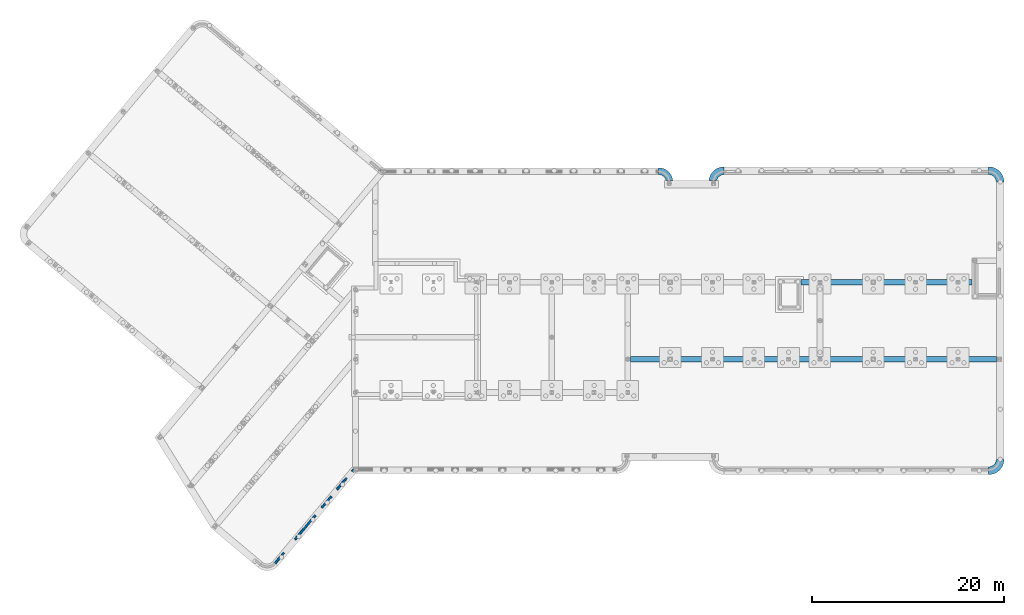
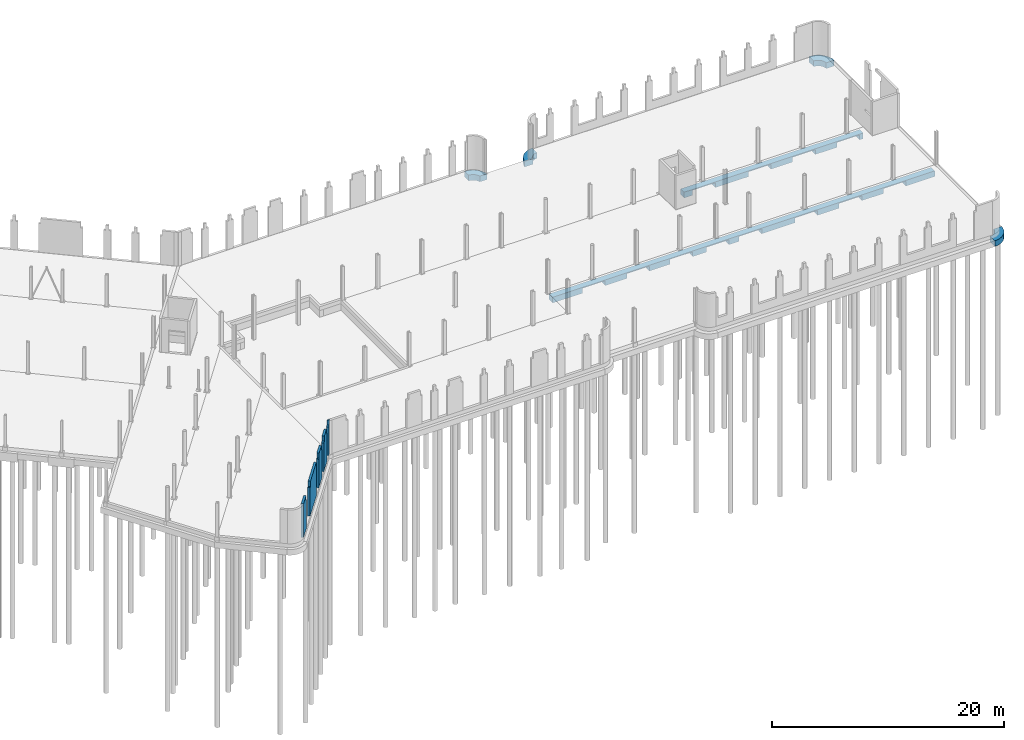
# One storey, part 24 of 26: 6 beams, 1 wall.
"""IFC2X3 building model written with IfcOpenShell, lengths in millimetres."""

from ifc_helpers import new_model, entity, si_unit, converted_unit, derived_unit, direction, frame, origin, place, context, subcontext, project, spatial, faceted_brep, material, layer, layer_set, type_object, element, save


model = new_model("IFC2X3")

# Units and contexts
model_context = context("Model", 3, precision=0.01, world=origin(), true_north=direction((6.123031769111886e-17, 1.0)))
body_context = subcontext(model_context, "Body", "Model", "MODEL_VIEW")
ifc_project = project(units=[si_unit("LENGTHUNIT", "METRE", prefix="MILLI"), si_unit("AREAUNIT", "SQUARE_METRE"), si_unit("VOLUMEUNIT", "CUBIC_METRE"), derived_unit("MASSDENSITYUNIT", [(si_unit("MASSUNIT", "GRAM", prefix="KILO"), 1), (si_unit("LENGTHUNIT", "METRE"), -3)]), si_unit("MASSUNIT", "GRAM", prefix="KILO"), converted_unit("PLANEANGLEUNIT", "DEGREE", entity("IfcPlaneAngleMeasure", 0.017453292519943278), si_unit("PLANEANGLEUNIT", "RADIAN"), dimensions=[0, 0, 0, 0, 0, 0, 0])], contexts=[model_context])

# Site, building, storey
site_placement = place(None, origin())
site = spatial("IfcSite", under=ifc_project, at=site_placement, Name="Default", CompositionType="ELEMENT")
building_placement = place(site_placement, origin())
building = spatial("IfcBuilding", under=site, at=building_placement, Name="AT constructie", CompositionType="ELEMENT")
storey_placement = place(building_placement, origin())
storey = spatial("IfcBuildingStorey", under=building, at=storey_placement, Name="00 begane grond", CompositionType="ELEMENT", Elevation=-1.0828671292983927e-12)

# Beams
ifc_material_1 = material(Name="f2_beton ihwg_gen")
beam_type_1 = type_object("IfcBeamType", Name="fund vierkant_gen_800x600", PredefinedType="NOTDEFINED")
beam_1_placement = place(storey_placement, frame((106945.27935887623, 41669.44823628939, -1050.0), z_axis=(0.0, 0.0, -1.0), x_axis=(1.0, 0.0, 0.0)))
element("IfcBeam", 1, at=beam_1_placement, inside=storey, type_object=beam_type_1, material=ifc_material_1, Name="NLRS_16_SF_LIB_balk fundering beton_gen_AT:fund vierkant_gen_800x600", ObjectType="NLRS_16_SF_LIB_balk fundering beton_gen_AT:fund vierkant_gen_800x600", context=body_context, shape_type="Brep", body=[
    faceted_brep([(1.595272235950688, -787.595272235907, -600.0), (96.3371029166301, -781.8644472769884, -600.0), (189.69738436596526, -764.7555407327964, -600.0), (280.31471345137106, -736.5180389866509, -600.0), (366.86768546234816, -697.5637083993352, -600.0), (448.09416316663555, -648.4605908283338, -600.0), (522.8096816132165, -589.9247202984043, -600.0), (589.9247202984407, -522.8096816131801, -600.0), (648.4605908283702, -448.09416316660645, -600.0), (697.5637083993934, -366.86768546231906, -600.0), (736.5180389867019, -280.3147134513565, -600.0), (764.7555407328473, -189.69738436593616, -600.0), (781.8644472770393, -96.337102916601, -600.0), (787.5952722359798, -1.5952722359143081, -600.0), (1587.5952722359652, -1.595272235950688, -600.0), (1581.5600634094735, -139.82428023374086, -600.0), (1563.5003685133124, -277.00128201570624, -600.0), (1533.5536327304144, -412.0822777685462, -600.0), (1491.9477688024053, -544.0392195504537, -600.0), (1438.9994224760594, -671.8678353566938, -600.0), (1375.1115626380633, -794.5952722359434, -600.0), (1300.7704144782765, -911.287500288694, -600.0), (1216.541759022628, -1021.0564211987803, -600.0), (1123.0666271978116, -1123.0666271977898, -600.0), (1021.0564211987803, -1216.541759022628, -600.0), (911.2875002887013, -1300.770414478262, -600.0), (794.5952722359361, -1375.1115626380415, -600.0), (671.8678353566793, -1438.9994224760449, -600.0), (544.0392195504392, -1491.947768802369, -600.0), (412.08227776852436, -1533.553632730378, -600.0), (277.0012820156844, -1563.500368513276, -600.0), (139.82428023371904, -1581.5600634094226, -600.0), (1.595272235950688, -1587.595272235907, -600.0), (277.0012820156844, -1563.500368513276, 0.0), (412.08227776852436, -1533.553632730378, 0.0), (139.82428023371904, -1581.5600634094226, 0.0), (544.0392195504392, -1491.947768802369, 0.0), (1021.0564211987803, -1216.541759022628, 0.0), (911.2875002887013, -1300.770414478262, 0.0), (671.8678353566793, -1438.9994224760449, 0.0), (794.5952722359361, -1375.1115626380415, 0.0), (1123.0666271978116, -1123.0666271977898, 0.0), (1.595272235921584, -1587.595272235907, 0.0), (1300.7704144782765, -911.287500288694, 0.0), (1375.1115626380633, -794.5952722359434, 0.0), (1216.541759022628, -1021.0564211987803, 0.0), (1438.9994224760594, -671.8678353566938, 0.0), (1581.5600634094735, -139.82428023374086, 0.0), (1563.5003685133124, -277.00128201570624, 0.0), (1491.9477688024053, -544.0392195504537, 0.0), (1533.5536327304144, -412.0822777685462, 0.0), (1587.5952722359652, -1.595272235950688, 0.0), (787.5952722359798, -1.595272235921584, 0.0), (781.8644472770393, -96.337102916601, 0.0), (764.7555407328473, -189.69738436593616, 0.0), (736.5180389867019, -280.3147134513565, 0.0), (697.5637083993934, -366.86768546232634, 0.0), (648.4605908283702, -448.09416316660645, 0.0), (589.9247202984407, -522.8096816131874, 0.0), (522.8096816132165, -589.9247202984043, 0.0), (448.09416316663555, -648.4605908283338, 0.0), (366.86768546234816, -697.5637083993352, 0.0), (280.31471345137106, -736.5180389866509, 0.0), (189.69738436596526, -764.7555407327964, 0.0), (96.3371029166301, -781.8644472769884, 0.0), (1.595272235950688, -787.595272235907, 0.0)], [[[0, 1, 2, 3, 4, 5, 6, 7, 8, 9, 10, 11, 12, 13, 14, 15, 16, 17, 18, 19, 20, 21, 22, 23, 24, 25, 26, 27, 28, 29, 30, 31, 32]], [[33, 30, 29, 34]], [[35, 31, 30, 33]], [[34, 29, 28, 36]], [[25, 24, 37, 38]], [[39, 27, 26, 40]], [[40, 26, 25, 38]], [[28, 27, 39, 36]], [[37, 24, 23, 41]], [[32, 31, 35, 42]], [[43, 21, 20, 44]], [[45, 22, 21, 43]], [[44, 20, 19, 46]], [[16, 15, 47, 48]], [[49, 18, 17, 50]], [[50, 17, 16, 48]], [[19, 18, 49, 46]], [[47, 15, 14, 51]], [[41, 23, 22, 45]], [[42, 35, 33, 34, 36, 39, 40, 38, 37, 41, 45, 43, 44, 46, 49, 50, 48, 47, 51, 52, 53, 54, 55, 56, 57, 58, 59, 60, 61, 62, 63, 64, 65]], [[1, 0, 65, 64]], [[1, 64, 63, 2]], [[61, 60, 5, 4]], [[4, 3, 62, 61]], [[3, 2, 63, 62]], [[6, 5, 60, 59]], [[59, 58, 7, 6]], [[8, 7, 58, 57]], [[8, 57, 56, 9]], [[54, 53, 12, 11]], [[11, 10, 55, 54]], [[10, 9, 56, 55]], [[13, 12, 53, 52]], [[32, 42, 65, 0]], [[14, 13, 52, 51]]]),
])
beam_2_placement = place(storey_placement, frame((106945.27935887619, 11283.448236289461, -1050.0), z_axis=(0.0, 0.0, -1.0), x_axis=(1.0, 0.0, 0.0)))
element("IfcBeam", 2, at=beam_2_placement, inside=storey, type_object=beam_type_1, material=ifc_material_1, Name="NLRS_16_SF_LIB_balk fundering beton_gen_AT:fund vierkant_gen_800x600", ObjectType="NLRS_16_SF_LIB_balk fundering beton_gen_AT:fund vierkant_gen_800x600", context=body_context, shape_type="Brep", body=[
    faceted_brep([(787.5952722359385, -1587.5952722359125, -600.0), (781.8644472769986, -1492.8534415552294, -600.0), (764.7555407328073, -1399.4931601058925, -600.0), (736.5180389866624, -1308.8758310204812, -600.0), (697.5637083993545, -1222.3228590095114, -600.0), (648.4605908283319, -1141.0963813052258, -600.0), (589.9247202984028, -1066.3808628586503, -600.0), (522.8096816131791, -999.2658241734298, -600.0), (448.09416316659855, -940.7299536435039, -600.0), (366.86768546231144, -891.6268360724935, -600.0), (280.3147134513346, -852.6725054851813, -600.0), (189.697384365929, -824.4350037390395, -600.0), (96.33710291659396, -807.3260971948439, -600.0), (1.5952722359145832, -801.5952722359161, -600.0), (1.5952722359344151, -1.595272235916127, -600.0), (139.82428023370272, -7.630481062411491, -600.0), (277.001282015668, -25.69017595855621, -600.0), (412.0822777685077, -55.6369117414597, -600.0), (544.0392195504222, -97.24277566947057, -600.0), (671.867835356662, -150.19112199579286, -600.0), (794.5952722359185, -214.07898183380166, -600.0), (911.2875002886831, -288.4201299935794, -600.0), (1021.0564211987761, -372.64878544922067, -600.0), (1123.0666271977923, -466.1239172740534, -600.0), (1216.541759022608, -568.1341232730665, -600.0), (1300.7704144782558, -677.9030441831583, -600.0), (1375.1115626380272, -794.5952722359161, -600.0), (1438.9994224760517, -917.3227091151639, -600.0), (1491.9477688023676, -1045.1513249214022, -600.0), (1533.5536327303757, -1177.1082667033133, -600.0), (1563.5003685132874, -1312.1892624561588, -600.0), (1581.560063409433, -1449.3662642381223, -600.0), (1587.5952722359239, -1587.5952722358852, -600.0), (1563.5003685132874, -1312.1892624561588, 0.0), (1533.5536327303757, -1177.1082667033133, 0.0), (1581.560063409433, -1449.3662642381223, 0.0), (1491.9477688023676, -1045.1513249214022, 0.0), (1216.541759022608, -568.1341232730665, 0.0), (1300.7704144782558, -677.9030441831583, 0.0), (1438.9994224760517, -917.3227091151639, 0.0), (1375.1115626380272, -794.5952722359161, 0.0), (1123.0666271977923, -466.1239172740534, 0.0), (1587.5952722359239, -1587.5952722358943, 0.0), (911.2875002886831, -288.4201299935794, 0.0), (794.5952722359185, -214.07898183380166, 0.0), (1021.0564211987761, -372.64878544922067, 0.0), (671.867835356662, -150.19112199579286, 0.0), (139.82428023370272, -7.630481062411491, 0.0), (277.001282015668, -25.69017595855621, 0.0), (544.0392195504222, -97.24277566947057, 0.0), (412.0822777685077, -55.63691174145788, 0.0), (1.5952722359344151, -1.595272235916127, 0.0), (1.5952722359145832, -801.5952722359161, 0.0), (96.33710291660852, -807.3260971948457, 0.0), (189.69738436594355, -824.4350037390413, 0.0), (280.3147134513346, -852.6725054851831, 0.0), (366.86768546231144, -891.6268360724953, 0.0), (448.0941631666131, -940.7299536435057, 0.0), (522.8096816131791, -999.2658241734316, 0.0), (589.9247202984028, -1066.380862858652, 0.0), (648.4605908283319, -1141.0963813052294, 0.0), (697.5637083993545, -1222.3228590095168, 0.0), (736.5180389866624, -1308.875831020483, 0.0), (764.7555407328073, -1399.493160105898, 0.0), (781.8644472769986, -1492.853441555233, 0.0), (787.5952722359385, -1587.595272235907, 0.0)], [[[0, 1, 2, 3, 4, 5, 6, 7, 8, 9, 10, 11, 12, 13, 14, 15, 16, 17, 18, 19, 20, 21, 22, 23, 24, 25, 26, 27, 28, 29, 30, 31, 32]], [[33, 30, 29, 34]], [[35, 31, 30, 33]], [[34, 29, 28, 36]], [[25, 24, 37, 38]], [[39, 27, 26, 40]], [[40, 26, 25, 38]], [[28, 27, 39, 36]], [[37, 24, 23, 41]], [[32, 31, 35, 42]], [[43, 21, 20, 44]], [[45, 22, 21, 43]], [[44, 20, 19, 46]], [[16, 15, 47, 48]], [[49, 18, 17, 50]], [[50, 17, 16, 48]], [[19, 18, 49, 46]], [[47, 15, 14, 51]], [[41, 23, 22, 45]], [[42, 35, 33, 34, 36, 39, 40, 38, 37, 41, 45, 43, 44, 46, 49, 50, 48, 47, 51, 52, 53, 54, 55, 56, 57, 58, 59, 60, 61, 62, 63, 64, 65]], [[1, 0, 65, 64]], [[1, 64, 63, 2]], [[61, 60, 5, 4]], [[4, 3, 62, 61]], [[3, 2, 63, 62]], [[6, 5, 60, 59]], [[59, 58, 7, 6]], [[8, 7, 58, 57]], [[8, 57, 56, 9]], [[54, 53, 12, 11]], [[11, 10, 55, 54]], [[10, 9, 56, 55]], [[13, 12, 53, 52]], [[42, 65, 0, 32]], [[13, 52, 51, 14]]]),
])
beam_3_placement = place(storey_placement, frame((77870.22380430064, 41855.44823628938, -1050.0), z_axis=(0.0, 0.0, 1.0), x_axis=(-1.0, 0.0, 0.0)))
element("IfcBeam", 3, at=beam_3_placement, inside=storey, type_object=beam_type_1, material=ifc_material_1, Name="NLRS_16_SF_LIB_balk fundering beton_gen_AT:fund vierkant_gen_800x600", ObjectType="NLRS_16_SF_LIB_balk fundering beton_gen_AT:fund vierkant_gen_800x600", context=body_context, shape_type="Brep", body=[
    faceted_brep([(-1576.6508268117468, -1401.5952722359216, 600.0), (-1441.23625237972, -1395.8037689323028, 600.0), (-1306.8106488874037, -1378.4715560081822, 600.0), (-1174.355764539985, -1349.7252155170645, 600.0), (-1044.8389548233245, -1309.7746901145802, 600.0), (-919.2061176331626, -1258.9117497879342, 600.0), (-798.3747851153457, -1197.5078609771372, 600.0), (-683.2274226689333, -1126.0114736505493, 600.0), (-574.6049840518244, -1044.9447461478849, 600.0), (-473.30076965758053, -954.8997317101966, 600.0), (-380.05463281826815, -856.5340545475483, 600.0), (-295.5475764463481, -750.5661070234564, 600.0), (-220.3967794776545, -637.7698030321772, 600.0), (-155.15108943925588, -518.9689258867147, 600.0), (-100.28701406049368, -395.031111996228, 600.0), (-56.20524120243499, -266.8615142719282, 600.0), (-23.227712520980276, -135.39619153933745, 600.0), (-1.5952722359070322, -1.5952722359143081, 600.0), (-812.9755031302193, -1.5952722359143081, 600.0), (-841.0326645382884, -92.47416152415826, 600.0), (-879.8612327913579, -179.29880763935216, 600.0), (-928.8926542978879, -260.7978665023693, 600.0), (-987.4089786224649, -335.77797508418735, 600.0), (-1054.553371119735, -403.1412251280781, 600.0), (-1129.34265927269, -461.901239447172, 600.0), (-1210.6817289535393, -511.19761511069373, 600.0), (-1297.3795598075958, -550.3085220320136, 600.0), (-1388.1666649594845, -578.6612724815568, 600.0), (-1481.7136796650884, -595.8407067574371, 600.0), (-1576.6508268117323, -601.5952722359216, 600.0), (-1441.23625237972, -1395.8037689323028, 0.0), (-1306.8106488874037, -1378.4715560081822, 0.0), (-1576.6508268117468, -1401.5952722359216, 0.0), (-1174.355764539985, -1349.7252155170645, 0.0), (-798.3747851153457, -1197.5078609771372, 0.0), (-683.2274226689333, -1126.0114736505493, 0.0), (-1044.8389548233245, -1309.7746901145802, 0.0), (-919.2061176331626, -1258.9117497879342, 0.0), (-574.6049840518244, -1044.9447461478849, 0.0), (-473.30076965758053, -954.8997317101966, 0.0), (-380.05463281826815, -856.5340545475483, 0.0), (-295.5475764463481, -750.5661070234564, 0.0), (-220.3967794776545, -637.7698030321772, 0.0), (-56.20524120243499, -266.8615142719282, 0.0), (-23.227712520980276, -135.39619153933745, 0.0), (-155.15108943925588, -518.9689258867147, 0.0), (-100.28701406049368, -395.031111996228, 0.0), (-1.595272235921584, -1.595272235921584, 0.0), (-1576.6508268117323, -601.5952722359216, 0.0), (-1481.7136796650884, -595.8407067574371, 0.0), (-1388.1666649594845, -578.6612724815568, 0.0), (-1297.3795598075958, -550.308522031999, 0.0), (-1210.6817289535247, -511.19761511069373, 0.0), (-1129.3426592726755, -461.901239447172, 0.0), (-1054.5533711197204, -403.14122512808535, 0.0), (-987.4089786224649, -335.77797508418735, 0.0), (-928.8926542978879, -260.79786650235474, 0.0), (-879.8612327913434, -179.2988076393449, 0.0), (-841.0326645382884, -92.47416152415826, 0.0), (-812.9755031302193, -1.5952722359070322, 0.0)], [[[0, 1, 2, 3, 4, 5, 6, 7, 8, 9, 10, 11, 12, 13, 14, 15, 16, 17, 18, 19, 20, 21, 22, 23, 24, 25, 26, 27, 28, 29]], [[2, 1, 30, 31]], [[1, 0, 32, 30]], [[3, 2, 31, 33]], [[34, 35, 7, 6]], [[5, 4, 36, 37]], [[6, 5, 37, 34]], [[33, 36, 4, 3]], [[8, 7, 35, 38]], [[38, 39, 9, 8]], [[11, 10, 40, 41]], [[10, 9, 39, 40]], [[12, 11, 41, 42]], [[43, 44, 16, 15]], [[14, 13, 45, 46]], [[15, 14, 46, 43]], [[42, 45, 13, 12]], [[17, 16, 44, 47]], [[48, 49, 50, 51, 52, 53, 54, 55, 56, 57, 58, 59, 47, 44, 43, 46, 45, 42, 41, 40, 39, 38, 35, 34, 37, 36, 33, 31, 30, 32]], [[48, 29, 28, 49]], [[27, 50, 49, 28]], [[51, 26, 25, 52]], [[27, 26, 51, 50]], [[52, 25, 24, 53]], [[24, 23, 54, 53]], [[54, 23, 22, 55]], [[21, 56, 55, 22]], [[57, 20, 19, 58]], [[21, 20, 57, 56]], [[58, 19, 18, 59]], [[29, 48, 32, 0]], [[18, 17, 47, 59]]]),
])
beam_type_2 = type_object("IfcBeamType", Name="fund vierkant_gen_700x600", PredefinedType="NOTDEFINED")
beam_4_placement = place(storey_placement, frame((72645.2793588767, 41855.4482362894, -1050.0), z_axis=(0.0, 0.0, -1.0), x_axis=(1.0, 0.0, 0.0)))
element("IfcBeam", 4, at=beam_4_placement, inside=storey, type_object=beam_type_2, material=ifc_material_1, Name="NLRS_16_SF_LIB_balk fundering beton_gen_AT:fund vierkant_gen_700x600", ObjectType="NLRS_16_SF_LIB_balk fundering beton_gen_AT:fund vierkant_gen_700x600", context=body_context, shape_type="Brep", body=[
    faceted_brep([(1.595272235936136, -601.595272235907, -600.0), (88.66440426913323, -596.757845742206, -600.0), (174.65454585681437, -582.3067484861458, -600.0), (258.51396203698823, -558.4201417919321, -600.0), (339.2095580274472, -525.392844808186, -600.0), (415.74914045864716, -483.6316286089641, -600.0), (487.1916221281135, -433.6504356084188, -600.0), (552.6585318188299, -376.0640795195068, -600.0), (611.344760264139, -311.5807174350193, -600.0), (662.5284122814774, -240.99318524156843, -600.0), (705.5796458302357, -165.1693012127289, -600.0), (739.968390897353, -85.04125501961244, -600.0), (765.2705959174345, -1.5952722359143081, -600.0), (1475.9086717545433, -1.595272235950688, -600.0), (1453.1190065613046, -133.83236732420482, -600.0), (1418.4933618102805, -263.4745012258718, -600.0), (1372.3140810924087, -389.464549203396, -600.0), (1314.9577183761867, -510.77516626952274, -600.0), (1246.8919675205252, -626.4171643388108, -600.0), (1168.6718486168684, -735.4475782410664, -600.0), (1080.9351822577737, -836.9773548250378, -600.0), (984.3973886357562, -930.1786024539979, -600.0), (879.8456538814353, -1014.2913417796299, -600.0), (768.1325112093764, -1088.6297027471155, -600.0), (650.1688892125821, -1152.5875173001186, -600.0), (526.9166839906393, -1205.6432621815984, -600.0), (399.38091567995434, -1247.3643115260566, -600.0), (268.6015333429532, -1277.410464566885, -600.0), (135.6449350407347, -1295.5367196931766, -600.0), (1.595272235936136, -1301.595272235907, -600.0), (268.6015333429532, -1277.410464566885, 0.0), (399.38091567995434, -1247.3643115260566, 0.0), (135.6449350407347, -1295.5367196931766, 0.0), (526.9166839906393, -1205.6432621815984, 0.0), (879.8456538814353, -1014.2913417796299, 0.0), (768.1325112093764, -1088.6297027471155, 0.0), (650.1688892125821, -1152.5875173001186, 0.0), (984.3973886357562, -930.1786024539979, 0.0), (1.595272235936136, -1301.595272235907, 0.0), (1168.6718486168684, -735.4475782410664, 0.0), (1246.8919675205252, -626.4171643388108, 0.0), (1080.9351822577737, -836.9773548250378, 0.0), (1314.9577183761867, -510.77516626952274, 0.0), (1453.1190065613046, -133.83236732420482, 0.0), (1418.4933618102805, -263.4745012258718, 0.0), (1372.3140810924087, -389.464549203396, 0.0), (1475.9086717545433, -1.595272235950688, 0.0), (765.2705959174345, -1.5952722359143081, 0.0), (739.9683908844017, -85.04125505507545, 0.0), (705.5796457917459, -165.1693012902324, 0.0), (662.5284122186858, -240.99318533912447, 0.0), (611.344760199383, -311.5807175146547, 0.0), (552.6585317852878, -376.0640795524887, 0.0), (487.1916221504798, -433.6504355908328, 0.0), (415.7491405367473, -483.6316285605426, 0.0), (339.2095581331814, -525.3928447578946, 0.0), (258.5139621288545, -558.4201417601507, 0.0), (174.65454590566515, -582.3067484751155, 0.0), (88.66440426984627, -596.7578457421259, 0.0), (1.595272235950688, -601.595272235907, 0.0)], [[[0, 1, 2, 3, 4, 5, 6, 7, 8, 9, 10, 11, 12, 13, 14, 15, 16, 17, 18, 19, 20, 21, 22, 23, 24, 25, 26, 27, 28, 29]], [[30, 27, 26, 31]], [[32, 28, 27, 30]], [[31, 26, 25, 33]], [[23, 22, 34, 35]], [[36, 24, 23, 35]], [[33, 25, 24, 36]], [[34, 22, 21, 37]], [[29, 28, 32, 38]], [[39, 19, 18, 40]], [[41, 20, 19, 39]], [[40, 18, 17, 42]], [[15, 14, 43, 44]], [[45, 16, 15, 44]], [[42, 17, 16, 45]], [[43, 14, 13, 46]], [[37, 21, 20, 41]], [[38, 32, 30, 31, 33, 36, 35, 34, 37, 41, 39, 40, 42, 45, 44, 43, 46, 47, 48, 49, 50, 51, 52, 53, 54, 55, 56, 57, 58, 59]], [[2, 1, 58, 57]], [[2, 57, 56, 3]], [[5, 4, 55, 54]], [[56, 55, 4, 3]], [[6, 5, 54, 53]], [[0, 59, 58, 1]], [[8, 7, 52, 51]], [[8, 51, 50, 9]], [[11, 10, 49, 48]], [[49, 10, 9, 50]], [[12, 11, 48, 47]], [[6, 53, 52, 7]], [[13, 12, 47, 46]], [[29, 38, 59, 0]]]),
])
beam_type_3 = type_object("IfcBeamType", Name="fund vierkant_gen_600x600", PredefinedType="NOTDEFINED")
beam_5_placement = place(storey_placement, frame((69746.87463111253, 22971.043508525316, -1050.0)))
element("IfcBeam", 5, at=beam_5_placement, inside=storey, type_object=beam_type_3, material=ifc_material_1, Name="NLRS_16_SF_LIB_balk fundering beton_gen_AT:fund vierkant_gen_600x600", ObjectType="NLRS_16_SF_LIB_balk fundering beton_gen_AT:fund vierkant_gen_600x600", context=body_context, shape_type="Brep", body=[
    faceted_brep([(37986.0, 0.0, 600.0), (37986.0, 0.0, 0.0), (37986.0, 600.0, 0.0), (37986.0, 600.0, 600.0), (19960.50000000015, 600.0, 600.0), (19360.500000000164, 600.0, 600.0), (0.0, 600.0, 600.0), (0.0, 0.0, 600.0), (35125.0, 600.0, 0.0), (35125.0, 600.0, 500.0), (32875.0, 600.0, 500.0), (32875.0, 600.0, 0.0), (30725.0, 600.0, 0.0), (30725.0, 600.0, 500.0), (28475.0, 600.0, 500.0), (28475.0, 600.0, 0.0), (26325.0, 600.0, 0.0), (26325.0, 600.0, 500.0), (24075.0, 600.0, 500.0), (24075.0, 600.0, 0.0), (20785.50000000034, 600.0, 0.0), (20785.50000000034, 600.0, 500.0), (19960.50000000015, 600.0, 500.0), (19360.500000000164, 600.0, 500.0), (18535.50000000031, 600.0, 500.0), (18535.50000000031, 600.0, 0.0), (17525.0, 600.0, 0.0), (17525.0, 600.0, 500.0), (15275.0, 600.0, 500.0), (15275.0, 600.0, 0.0), (13925.0, 600.0, 0.0), (13925.0, 600.0, 500.0), (11675.0, 600.0, 500.0), (11675.0, 600.0, 0.0), (9625.0, 600.0, 0.0), (9625.0, 600.0, 500.0), (7375.0, 600.0, 500.0), (7375.0, 600.0, 0.0), (5225.0, 600.0, 0.0), (5225.0, 600.0, 500.0), (2975.0, 600.0, 500.0), (2975.0, 600.0, 0.0), (0.0, 600.0, 0.0), (0.0, 0.0, 0.0), (2975.0, 0.0, 0.0), (2975.0, 0.0, 500.0), (5225.0, 0.0, 500.0), (5225.0, 0.0, 0.0), (7375.0, 0.0, 0.0), (7375.0, 0.0, 500.0), (9625.0, 0.0, 500.0), (9625.0, 0.0, 0.0), (11675.0, 0.0, 0.0), (11675.0, 0.0, 500.0), (13925.0, 0.0, 500.0), (13925.0, 0.0, 0.0), (15275.0, 0.0, 0.0), (15275.0, 0.0, 500.0), (17525.0, 0.0, 500.0), (17525.0, 0.0, 0.0), (18535.50000000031, 0.0, 0.0), (18535.50000000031, 0.0, 500.0), (20785.50000000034, 0.0, 500.0), (20785.50000000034, 0.0, 0.0), (24075.0, 0.0, 0.0), (24075.0, 0.0, 500.0), (26325.0, 0.0, 500.0), (26325.0, 0.0, 0.0), (28475.0, 0.0, 0.0), (28475.0, 0.0, 500.0), (30725.0, 0.0, 500.0), (30725.0, 0.0, 0.0), (32875.0, 0.0, 0.0), (32875.0, 0.0, 500.0), (35125.0, 0.0, 500.0), (35125.0, 0.0, 0.0)], [[[0, 1, 2, 3]], [[0, 3, 4, 5, 6, 7]], [[3, 2, 8, 9, 10, 11, 12, 13, 14, 15, 16, 17, 18, 19, 20, 21, 22, 23, 24, 25, 26, 27, 28, 29, 30, 31, 32, 33, 34, 35, 36, 37, 38, 39, 40, 41, 42, 6, 5, 4]], [[43, 42, 41, 44]], [[1, 0, 7, 43, 44, 45, 46, 47, 48, 49, 50, 51, 52, 53, 54, 55, 56, 57, 58, 59, 60, 61, 62, 63, 64, 65, 66, 67, 68, 69, 70, 71, 72, 73, 74, 75]], [[7, 6, 42, 43]], [[73, 10, 9, 74]], [[74, 9, 8, 75]], [[10, 73, 72, 11]], [[69, 14, 13, 70]], [[70, 13, 12, 71]], [[14, 69, 68, 15]], [[65, 18, 17, 66]], [[66, 17, 16, 67]], [[18, 65, 64, 19]], [[61, 24, 23, 22, 21, 62]], [[62, 21, 20, 63]], [[24, 61, 60, 25]], [[57, 28, 27, 58]], [[58, 27, 26, 59]], [[28, 57, 56, 29]], [[53, 32, 31, 54]], [[54, 31, 30, 55]], [[32, 53, 52, 33]], [[49, 36, 35, 50]], [[50, 35, 34, 51]], [[36, 49, 48, 37]], [[45, 40, 39, 46]], [[46, 39, 38, 47]], [[40, 45, 44, 41]], [[2, 1, 75, 8]], [[11, 72, 71, 12]], [[15, 68, 67, 16]], [[19, 64, 63, 20]], [[25, 60, 59, 26]], [[29, 56, 55, 30]], [[33, 52, 51, 34]], [[37, 48, 47, 38]]]),
])
beam_6_placement = place(storey_placement, frame((87430.87463111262, 30971.043508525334, -1050.0)))
element("IfcBeam", 6, at=beam_6_placement, inside=storey, type_object=beam_type_3, material=ifc_material_1, Name="NLRS_16_SF_LIB_balk fundering beton_gen_AT:fund vierkant_gen_600x600", ObjectType="NLRS_16_SF_LIB_balk fundering beton_gen_AT:fund vierkant_gen_600x600", context=body_context, shape_type="Brep", body=[
    faceted_brep([(0.0, 0.0, 600.0), (0.0, 236.0, 600.0), (0.0, 300.0, 600.0), (0.0, 600.0, 600.0), (0.0, 600.0, 0.0), (0.0, 0.0, 0.0), (1676.5000000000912, 0.0, 600.0), (2276.500000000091, 0.0, 600.0), (17795.000003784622, 0.0, 600.0), (17795.000003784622, 600.0, 600.0), (17795.000003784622, 600.0, 0.0), (17441.0, 600.0, 0.0), (17441.0, 600.0, 500.0), (15191.0, 600.0, 500.0), (15191.0, 600.0, 0.0), (13041.0, 600.0, 0.0), (13041.0, 600.0, 500.0), (10791.0, 600.0, 500.0), (10791.0, 600.0, 0.0), (8641.0, 600.0, 0.0), (8641.0, 600.0, 500.0), (6391.0, 600.0, 500.0), (6391.0, 600.0, 0.0), (3106.500000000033, 600.0, 0.0), (3106.500000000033, 600.0, 500.0), (856.5000000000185, 600.0, 500.0), (856.5000000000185, 600.0, 0.0), (856.5000000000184, 0.0, 0.0), (856.5000000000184, 0.0, 500.0), (1676.5000000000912, 0.0, 500.0), (2276.500000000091, 0.0, 500.0), (3106.5000000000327, 0.0, 500.0), (3106.5000000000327, 0.0, 0.0), (6391.0, 0.0, 0.0), (6391.0, 0.0, 500.0), (8641.0, 0.0, 500.0), (8641.0, 0.0, 0.0), (10791.0, 0.0, 0.0), (10791.0, 0.0, 500.0), (13041.0, 0.0, 500.0), (13041.0, 0.0, 0.0), (15191.0, 0.0, 0.0), (15191.0, 0.0, 500.0), (17441.0, 0.0, 500.0), (17441.0, 0.0, 0.0), (17795.000003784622, 0.0, 0.0)], [[[0, 1, 2, 3, 4, 5]], [[3, 2, 1, 0, 6, 7, 8, 9]], [[4, 3, 9, 10, 11, 12, 13, 14, 15, 16, 17, 18, 19, 20, 21, 22, 23, 24, 25, 26]], [[5, 4, 26, 27]], [[0, 5, 27, 28, 29, 30, 31, 32, 33, 34, 35, 36, 37, 38, 39, 40, 41, 42, 43, 44, 45, 8, 7, 6]], [[24, 31, 30, 29, 28, 25]], [[25, 28, 27, 26]], [[31, 24, 23, 32]], [[32, 23, 22, 33]], [[20, 35, 34, 21]], [[21, 34, 33, 22]], [[35, 20, 19, 36]], [[36, 19, 18, 37]], [[16, 39, 38, 17]], [[17, 38, 37, 18]], [[39, 16, 15, 40]], [[40, 15, 14, 41]], [[12, 43, 42, 13]], [[13, 42, 41, 14]], [[43, 12, 11, 44]], [[44, 11, 10, 45]], [[9, 8, 45, 10]]]),
])

# Wall
ifc_material_2 = material(Name="f1_kalkzandsteen_CS36")
ifc_layer = layer(ifc_material_2, 214.0)
ifc_layer_set = layer_set([ifc_layer], Name="Basic Wall:NLRS_22_WA_kalkzandsteen 214_CS36 gen_AT")
wall_type = type_object("IfcWallType", Name="NLRS_22_WA_kalkzandsteen 214_CS36 gen_AT", PredefinedType="STANDARD", material=ifc_layer_set)
wall_placement = place(storey_placement, frame((41100.81645415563, 11953.821782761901, -50.0), z_axis=(0.0, 0.0, 1.0), x_axis=(-0.6427876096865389, -0.7660444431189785, 0.0)))
element("IfcWall", 7, at=wall_placement, inside=storey, type_object=wall_type, Name="Basic Wall:NLRS_22_WA_kalkzandsteen 214_CS36 gen_AT", ObjectType="Basic Wall:NLRS_22_WA_kalkzandsteen 214_CS36 gen_AT", context=body_context, shape_type="Brep", body=[
    faceted_brep([(179.56732107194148, -107.0, 0.0), (442.7844910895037, -107.0, 0.0), (442.7844910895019, -107.0, 3000.0), (179.56732107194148, -107.0, 3000.0), (0.0, 107.0, 0.0), (279.3571599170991, 107.0, 0.0), (442.78449108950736, 107.0, 0.0), (0.0, 107.0, 3544.0), (162.3785805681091, -86.51525675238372, 3000.0), (162.3785805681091, -86.51525675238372, 3544.0), (162.3785805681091, 107.0, 3000.0), (162.3785805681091, 107.0, 3544.0), (442.78449108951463, 107.0, 3000.0)], [[[0, 1, 2, 3]], [[0, 4, 5, 6, 1]], [[7, 4, 0, 3, 8, 9]], [[8, 10, 11, 9]], [[10, 8, 3, 2, 12]], [[2, 1, 6, 12]], [[11, 7, 9]], [[4, 7, 11, 10, 12, 6, 5]]]),
    faceted_brep([(12926.6041457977, 107.0, 3544.0), (12926.6041457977, 107.0, 0.0), (11491.623167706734, 107.0, 0.0), (11491.623167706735, 107.0, 3000.0), (11681.62316770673, 107.0, 3000.0), (11681.62316770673, 107.0, 3544.0), (12922.863182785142, -107.0, 3544.0), (11681.623167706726, -107.0, 3544.0), (12922.863182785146, -107.0, 0.0), (11681.62316770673, -107.0, 3000.0), (11491.623167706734, -107.0, 0.0), (11491.62316770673, -107.0, 3000.0)], [[[0, 1, 2, 3, 4, 5]], [[6, 0, 5, 7]], [[6, 8, 1, 0]], [[4, 9, 7, 5]], [[10, 11, 3, 2]], [[9, 4, 3, 11]], [[1, 8, 10, 2]], [[8, 6, 7, 9, 11, 10]]]),
    faceted_brep([(9491.623167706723, -107.0, 3000.0), (9491.62316770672, 107.0, 3000.0), (9491.623167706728, 107.0, 3544.0), (9491.623167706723, -107.0, 3544.0), (9681.623167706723, -107.0, 3000.0), (9681.62316770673, 107.0, 3000.0), (6602.784491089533, 107.0, 3000.0), (6602.784491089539, -107.0, 3000.0), (6602.784491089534, -107.0, 3544.0), (6602.784491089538, 107.0, 3544.0), (6412.784491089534, -107.0, 0.0), (6412.784491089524, -107.0, 3000.0), (6412.784491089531, 107.0, 3000.0), (6412.784491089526, 107.0, 0.0), (9681.62316770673, -107.0, 0.0), (9681.62316770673, 107.0, 0.0)], [[[0, 1, 2, 3]], [[1, 0, 4, 5]], [[6, 7, 8, 9]], [[10, 11, 12, 13]], [[4, 14, 15, 5]], [[7, 6, 12, 11]], [[3, 2, 9, 8]], [[14, 10, 13, 15]], [[2, 1, 5, 15, 13, 12, 6, 9]], [[0, 3, 8, 7, 11, 10, 14, 4]]]),
    faceted_brep([(5172.784491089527, -107.0, 3000.0), (5172.784491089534, 107.0, 3000.0), (5172.784491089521, 107.0, 3544.0), (5172.78449108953, -107.0, 3544.0), (5362.784491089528, -107.0, 3000.0), (5362.784491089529, 107.0, 3000.0), (4022.7844910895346, 107.0, 3000.0), (4022.7844910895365, -107.0, 3000.0), (4022.7844910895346, -107.0, 3544.0), (4022.7844910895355, 107.0, 3544.0), (3832.7844910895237, -107.0, 0.0), (3832.784491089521, -107.0, 3000.0), (3832.7844910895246, 107.0, 3000.0), (3832.7844910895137, 107.0, 0.0), (5362.784491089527, -107.0, 0.0), (5362.784491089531, 107.0, 0.0)], [[[0, 1, 2, 3]], [[1, 0, 4, 5]], [[6, 7, 8, 9]], [[10, 11, 12, 13]], [[4, 14, 15, 5]], [[7, 6, 12, 11]], [[3, 2, 9, 8]], [[14, 10, 13, 15]], [[2, 1, 5, 15, 13, 12, 6, 9]], [[0, 3, 8, 7, 11, 10, 14, 4]]]),
    faceted_brep([(2592.784491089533, -107.0, 3000.0), (2592.7844910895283, 107.0, 3000.0), (2592.7844910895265, 107.0, 3544.0), (2592.78449108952, -107.0, 3544.0), (2902.7844910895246, -107.0, 3000.0), (2902.784491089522, 107.0, 3000.0), (1562.784491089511, 107.0, 3000.0), (1562.7844910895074, -107.0, 3000.0), (1562.7844910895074, -107.0, 3544.0), (1562.7844910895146, 107.0, 3544.0), (1372.784491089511, -107.0, 0.0), (1372.7844910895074, -107.0, 3000.0), (1372.7844910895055, 107.0, 3000.0), (1372.7844910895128, 107.0, 0.0), (2902.7844910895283, -107.0, 0.0), (2902.784491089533, 107.0, 0.0)], [[[0, 1, 2, 3]], [[1, 0, 4, 5]], [[6, 7, 8, 9]], [[10, 11, 12, 13]], [[4, 14, 15, 5]], [[7, 6, 12, 11]], [[3, 2, 9, 8]], [[14, 10, 13, 15]], [[2, 1, 5, 15, 13, 12, 6, 9]], [[0, 3, 8, 7, 11, 10, 14, 4]]]),
])

save(model, "model.ifc")
